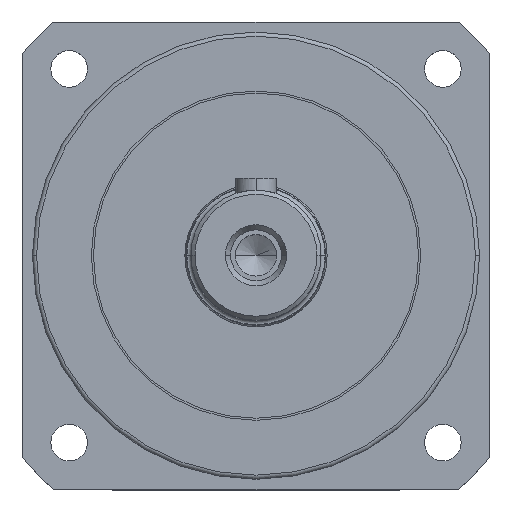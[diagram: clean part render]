
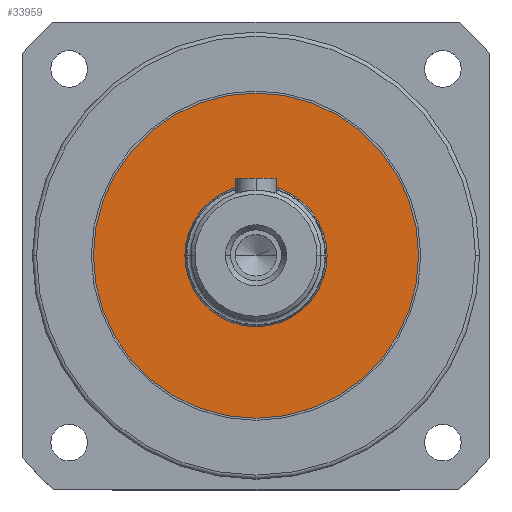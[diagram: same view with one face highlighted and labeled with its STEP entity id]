
A CAD part, top view. The second image highlights one B-rep face of the part: STEP entity #33959.
In plain terms, the highlighted planar face has unit normal (0, 0, 1).
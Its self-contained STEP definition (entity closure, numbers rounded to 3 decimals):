
#2407 = CIRCLE ( 'NONE', #8199, 17.5 ) ;
#2888 = VERTEX_POINT ( 'NONE', #52099 ) ;
#4457 = EDGE_LOOP ( 'NONE', ( #49563, #5751 ) ) ;
#5751 = ORIENTED_EDGE ( 'NONE', *, *, #10764, .F. ) ;
#7763 = DIRECTION ( 'NONE',  ( 1., 0., 0. ) ) ;
#8199 = AXIS2_PLACEMENT_3D ( 'NONE', #27048, #53504, #17653 ) ;
#9387 = VERTEX_POINT ( 'NONE', #28890 ) ;
#10764 = EDGE_CURVE ( 'NONE', #2888, #20287, #19327, .T. ) ;
#10799 = DIRECTION ( 'NONE',  ( 1., 0., 0. ) ) ;
#10980 = CARTESIAN_POINT ( 'NONE',  ( -14.888, 1.959, 211.364 ) ) ;
#11360 = DIRECTION ( 'NONE',  ( 1., 0., 0. ) ) ;
#16570 = PLANE ( 'NONE',  #43656 ) ;
#17653 = DIRECTION ( 'NONE',  ( 1., 0., 0. ) ) ;
#18855 = AXIS2_PLACEMENT_3D ( 'NONE', #29880, #24747, #10799 ) ;
#19327 = CIRCLE ( 'NONE', #58100, 17.5 ) ;
#20287 = VERTEX_POINT ( 'NONE', #10980 ) ;
#21840 = ORIENTED_EDGE ( 'NONE', *, *, #40964, .T. ) ;
#23336 = EDGE_CURVE ( 'NONE', #9387, #46768, #30165, .T. ) ;
#24747 = DIRECTION ( 'NONE',  ( 0., 0., 1. ) ) ;
#24953 = EDGE_LOOP ( 'NONE', ( #47607, #21840 ) ) ;
#26196 = CARTESIAN_POINT ( 'NONE',  ( 2.612, 1.959, 211.364 ) ) ;
#27048 = CARTESIAN_POINT ( 'NONE',  ( 2.612, 1.959, 211.364 ) ) ;
#28890 = CARTESIAN_POINT ( 'NONE',  ( 42.612, 1.959, 211.364 ) ) ;
#29880 = CARTESIAN_POINT ( 'NONE',  ( 2.612, 1.959, 211.364 ) ) ;
#30165 = CIRCLE ( 'NONE', #32115, 40. ) ;
#30519 = CARTESIAN_POINT ( 'NONE',  ( 2.612, 1.959, 211.364 ) ) ;
#30812 = FACE_BOUND ( 'NONE', #4457, .T. ) ;
#32115 = AXIS2_PLACEMENT_3D ( 'NONE', #43530, #47803, #11360 ) ;
#33959 = ADVANCED_FACE ( 'NONE', ( #30812, #54210 ), #16570, .T. ) ;
#35379 = DIRECTION ( 'NONE',  ( 0., 0., 1. ) ) ;
#39222 = CIRCLE ( 'NONE', #18855, 40. ) ;
#40964 = EDGE_CURVE ( 'NONE', #46768, #9387, #39222, .T. ) ;
#43530 = CARTESIAN_POINT ( 'NONE',  ( 2.612, 1.959, 211.364 ) ) ;
#43656 = AXIS2_PLACEMENT_3D ( 'NONE', #30519, #35379, #7763 ) ;
#44721 = DIRECTION ( 'NONE',  ( 0., 0., 1. ) ) ;
#45533 = EDGE_CURVE ( 'NONE', #20287, #2888, #2407, .T. ) ;
#46768 = VERTEX_POINT ( 'NONE', #48984 ) ;
#47607 = ORIENTED_EDGE ( 'NONE', *, *, #23336, .T. ) ;
#47803 = DIRECTION ( 'NONE',  ( 0., 0., 1. ) ) ;
#48680 = DIRECTION ( 'NONE',  ( 1., 0., 0. ) ) ;
#48984 = CARTESIAN_POINT ( 'NONE',  ( -37.388, 1.959, 211.364 ) ) ;
#49563 = ORIENTED_EDGE ( 'NONE', *, *, #45533, .F. ) ;
#52099 = CARTESIAN_POINT ( 'NONE',  ( 20.112, 1.959, 211.364 ) ) ;
#53504 = DIRECTION ( 'NONE',  ( 0., 0., 1. ) ) ;
#54210 = FACE_OUTER_BOUND ( 'NONE', #24953, .T. ) ;
#58100 = AXIS2_PLACEMENT_3D ( 'NONE', #26196, #44721, #48680 ) ;
